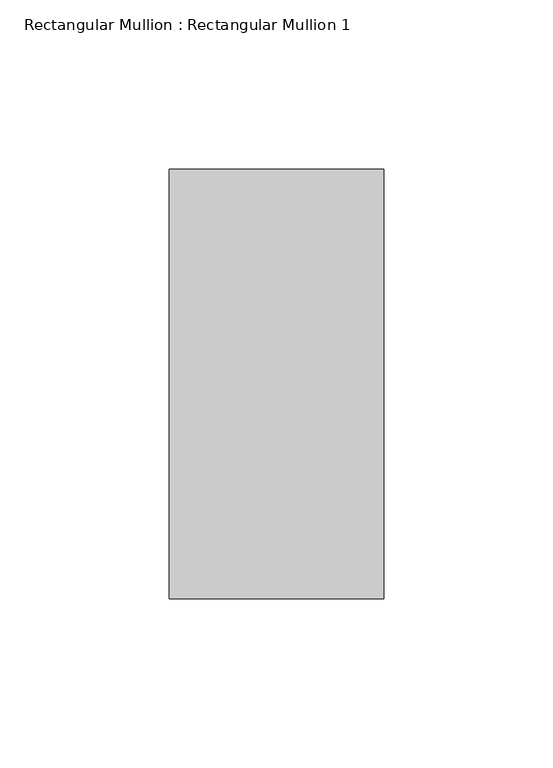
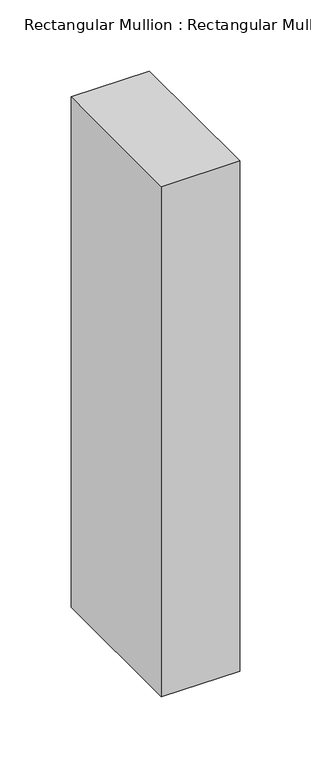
"""IFC4 building model written with IfcOpenShell, lengths in millimetres: member geometry, Rectangular Mullion : Rectangular Mullion 1."""

from ifc_helpers import new_model, si_unit, frame, origin, place, context, project, spatial, polyline, outline, extrude, source, transform, mapped, element, save


def rectangular_mullion_rectangular_mullion_1_505fbe18(model_context):
    return source(origin(), model_context, "Body", "SweptSolid", [
        extrude(outline(polyline([(31.75, 63.5), (31.75, -63.5), (-31.75, -63.5), (-31.75, 63.5), (31.75, 63.5)])), frame((0.0, 0.0, -438.15), z_axis=(0.0, 0.0, 1.0), x_axis=(1.0, 0.0, 0.0)), (0.0, 0.0, 1.0), 438.15),
    ])


if __name__ == "__main__":
    model = new_model("IFC4")
    model_context = context("Model", 3, world=origin())
    ifc_project = project(units=[si_unit("LENGTHUNIT", "METRE", prefix="MILLI")], contexts=[model_context])
    site = spatial("IfcSite", under=ifc_project)
    building = spatial("IfcBuilding", under=site)
    placement = place(None, origin())
    rectangular_mullion_rectangular_mullion_1_shape = rectangular_mullion_rectangular_mullion_1_505fbe18(model_context)
    element("IfcMember", 1, ObjectType="Rectangular Mullion : Rectangular Mullion 1", at=placement, inside=building, context=model_context, shape_type="MappedRepresentation", body=[
        mapped(rectangular_mullion_rectangular_mullion_1_shape, transform((0.0, 0.0, 0.0), x_axis=(1.0, 0.0, 0.0), y_axis=(0.0, 1.0, 0.0), z_axis=(0.0, 0.0, 1.0))),
    ])
    save(model, "model.ifc")
